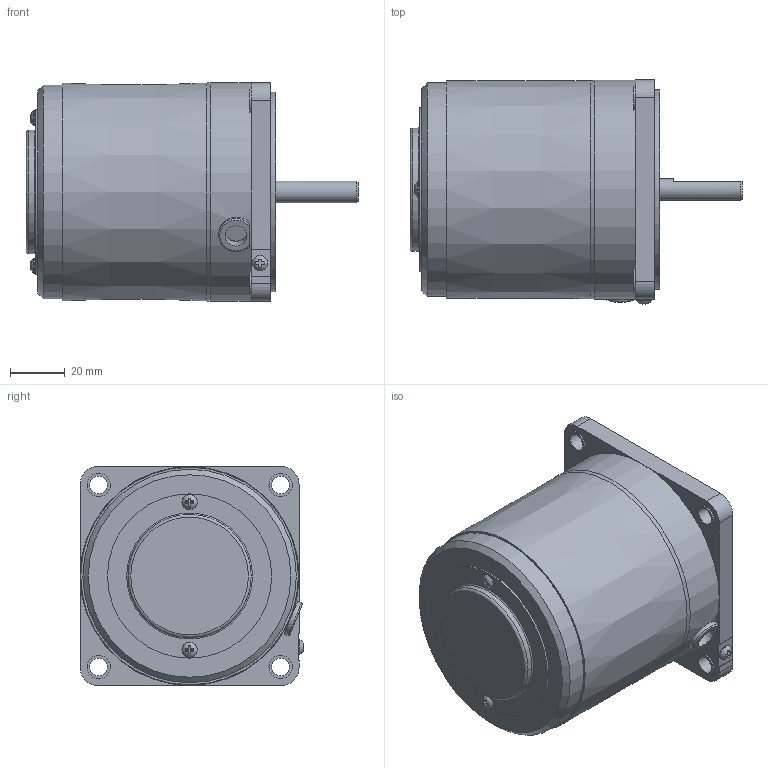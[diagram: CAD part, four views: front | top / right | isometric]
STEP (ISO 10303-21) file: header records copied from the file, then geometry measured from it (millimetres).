
FILE_DESCRIPTION(/* description */ (''),/* implementation_level */ '2;1');
FILE_NAME(/* name */ 'E:\도면작업\2016\0704) 미주향 SG 도면\3D MOTOR\SG6R\SG8R25D\SG8R25D_.stp',/* time_stamp */ '2016-12-12T16:30:05+09:00',/* author */ ('jy-jung'),/* organization */ (''),/* preprocessor_version */ 'ST-DEVELOPER v15.6',/* originating_system */ 'Autodesk Inventor 2015',/* authorisation */ '');
FILE_SCHEMA (('AUTOMOTIVE_DESIGN { 1 0 10303 214 3 1 1 }'));
Length unit declared in the file: millimetre
Products named in the file (1): 부품5
Bounding box: 121.3 x 81.76 x 80 mm (x, y, z)
Volume: 430817.2 mm3; surface area: 41575.8 mm2
Topology: 1 solids, 5 shells, 161 faces, 385 edges, 253 vertices
Faces by surface type: plane 104, cylinder 41, torus 10, bspline 3, cone 3
Full cylindrical faces by diameter (mm): 3 x2, 3.5 x2, 5.6 x3, 6.5 x4, 8 x2, 8.5 x4, 34 x1, 43 x1, 45 x1, 60 x1, 73 x1, 78 x1, 80 x1
Entity records: 4927 total; most frequent: CARTESIAN_POINT 1125, DIRECTION 724, ORIENTED_EDGE 694, EDGE_CURVE 347, AXIS2_PLACEMENT_3D 267, VERTEX_POINT 250, EDGE_LOOP 227, LINE 190
